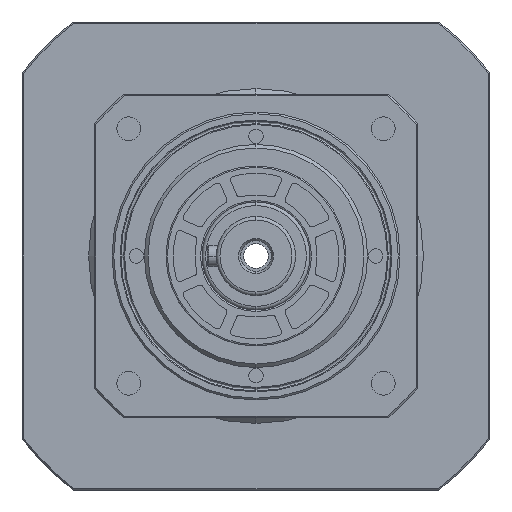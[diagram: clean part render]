
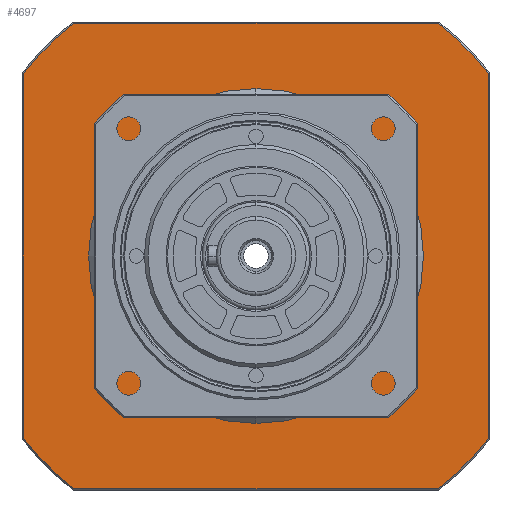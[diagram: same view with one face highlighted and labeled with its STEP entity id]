
A CAD part, left-side view. The second image highlights one B-rep face of the part: STEP entity #4697.
In plain terms, the highlighted planar face has unit normal (-1, 0, 0).
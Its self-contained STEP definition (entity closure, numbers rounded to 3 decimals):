
#113 = FACE_BOUND ( 'NONE', #980, .T. ) ;
#191 = FACE_OUTER_BOUND ( 'NONE', #988, .T. ) ;
#980 = EDGE_LOOP ( 'NONE', ( #1391, #1779 ) ) ;
#988 = EDGE_LOOP ( 'NONE', ( #1407, #1781, #1782, #1783, #1415, #1414, #1417, #1416 ) ) ;
#1391 = ORIENTED_EDGE ( 'NONE', *, *, #10504, .T. ) ;
#1407 = ORIENTED_EDGE ( 'NONE', *, *, #6559, .T. ) ;
#1414 = ORIENTED_EDGE ( 'NONE', *, *, #6561, .T. ) ;
#1415 = ORIENTED_EDGE ( 'NONE', *, *, #6557, .T. ) ;
#1416 = ORIENTED_EDGE ( 'NONE', *, *, #6851, .T. ) ;
#1417 = ORIENTED_EDGE ( 'NONE', *, *, #6846, .T. ) ;
#1779 = ORIENTED_EDGE ( 'NONE', *, *, #6555, .T. ) ;
#1781 = ORIENTED_EDGE ( 'NONE', *, *, #6572, .T. ) ;
#1782 = ORIENTED_EDGE ( 'NONE', *, *, #6567, .T. ) ;
#1783 = ORIENTED_EDGE ( 'NONE', *, *, #6564, .T. ) ;
#2352 = DIRECTION ( 'NONE',  ( -1., 0., 0. ) ) ;
#2355 = DIRECTION ( 'NONE',  ( 0., 1., 0. ) ) ;
#2423 = DIRECTION ( 'NONE',  ( 0., 0., -1. ) ) ;
#2424 = CARTESIAN_POINT ( 'NONE',  ( 206.4, 2.422, 0. ) ) ;
#2430 = CARTESIAN_POINT ( 'NONE',  ( 206.4, 41.422, 64.6 ) ) ;
#3274 = CARTESIAN_POINT ( 'NONE',  ( 206.4, 67.022, -50.668 ) ) ;
#3548 = DIRECTION ( 'NONE',  ( 0., 0., -1. ) ) ;
#3551 = PLANE ( 'NONE',  #6092 ) ;
#3552 = DIRECTION ( 'NONE',  ( 1., 0., 0. ) ) ;
#3553 = CARTESIAN_POINT ( 'NONE',  ( 206.4, 41.422, 0. ) ) ;
#3608 = CARTESIAN_POINT ( 'NONE',  ( 206.4, 67.022, 50.668 ) ) ;
#3651 = CARTESIAN_POINT ( 'NONE',  ( 206.4, -62.178, -50.668 ) ) ;
#3831 = CIRCLE ( 'NONE', #12717, 39.4 ) ;
#4697 = ADVANCED_FACE ( 'NONE', ( #113, #191 ), #3551, .F. ) ;
#4813 = VERTEX_POINT ( 'NONE', #3608 ) ;
#4831 = VERTEX_POINT ( 'NONE', #3274 ) ;
#4900 = VERTEX_POINT ( 'NONE', #3651 ) ;
#6092 = AXIS2_PLACEMENT_3D ( 'NONE', #3553, #3552, #3548 ) ;
#6555 = EDGE_CURVE ( 'NONE', #8344, #8627, #9176, .T. ) ;
#6557 = EDGE_CURVE ( 'NONE', #4900, #8744, #9178, .T. ) ;
#6559 = EDGE_CURVE ( 'NONE', #4813, #4831, #9180, .T. ) ;
#6561 = EDGE_CURVE ( 'NONE', #8744, #8172, #9184, .T. ) ;
#6564 = EDGE_CURVE ( 'NONE', #8623, #4900, #9185, .T. ) ;
#6567 = EDGE_CURVE ( 'NONE', #8550, #8623, #9186, .T. ) ;
#6572 = EDGE_CURVE ( 'NONE', #4831, #8550, #9193, .T. ) ;
#6846 = EDGE_CURVE ( 'NONE', #8172, #8722, #7237, .T. ) ;
#6851 = EDGE_CURVE ( 'NONE', #8722, #4813, #7225, .T. ) ;
#7225 = CIRCLE ( 'NONE', #12540, 82.1 ) ;
#7227 = VECTOR ( 'NONE', #2355, 1000. ) ;
#7237 = LINE ( 'NONE', #2430, #7227 ) ;
#7361 = CARTESIAN_POINT ( 'NONE',  ( 206.4, 53.09, 64.6 ) ) ;
#7389 = CARTESIAN_POINT ( 'NONE',  ( 206.4, -62.178, 50.668 ) ) ;
#7737 = CARTESIAN_POINT ( 'NONE',  ( 206.4, -48.246, 64.6 ) ) ;
#7795 = CARTESIAN_POINT ( 'NONE',  ( 206.4, 2.422, -39.4 ) ) ;
#7847 = CARTESIAN_POINT ( 'NONE',  ( 206.4, 53.09, -64.6 ) ) ;
#7869 = CARTESIAN_POINT ( 'NONE',  ( 206.4, -48.246, -64.6 ) ) ;
#7872 = CARTESIAN_POINT ( 'NONE',  ( 206.4, 2.422, 39.4 ) ) ;
#8172 = VERTEX_POINT ( 'NONE', #7737 ) ;
#8344 = VERTEX_POINT ( 'NONE', #7795 ) ;
#8550 = VERTEX_POINT ( 'NONE', #7847 ) ;
#8623 = VERTEX_POINT ( 'NONE', #7869 ) ;
#8627 = VERTEX_POINT ( 'NONE', #7872 ) ;
#8722 = VERTEX_POINT ( 'NONE', #7361 ) ;
#8744 = VERTEX_POINT ( 'NONE', #7389 ) ;
#9176 = CIRCLE ( 'NONE', #12604, 39.4 ) ;
#9178 = LINE ( 'NONE', #10563, #9179 ) ;
#9179 = VECTOR ( 'NONE', #10558, 1000. ) ;
#9180 = LINE ( 'NONE', #10522, #9182 ) ;
#9182 = VECTOR ( 'NONE', #10512, 1000. ) ;
#9184 = CIRCLE ( 'NONE', #12848, 82.1 ) ;
#9185 = CIRCLE ( 'NONE', #12599, 82.1 ) ;
#9186 = LINE ( 'NONE', #12067, #9188 ) ;
#9188 = VECTOR ( 'NONE', #12065, 1000. ) ;
#9193 = CIRCLE ( 'NONE', #12598, 82.1 ) ;
#10504 = EDGE_CURVE ( 'NONE', #8627, #8344, #3831, .T. ) ;
#10512 = DIRECTION ( 'NONE',  ( 0., 0., -1. ) ) ;
#10522 = CARTESIAN_POINT ( 'NONE',  ( 206.4, 67.022, 0. ) ) ;
#10528 = DIRECTION ( 'NONE',  ( 1., 0., 0. ) ) ;
#10558 = DIRECTION ( 'NONE',  ( 0., 0., 1. ) ) ;
#10563 = CARTESIAN_POINT ( 'NONE',  ( 206.4, -62.178, 0. ) ) ;
#10567 = DIRECTION ( 'NONE',  ( 0., 0., -1. ) ) ;
#10579 = CARTESIAN_POINT ( 'NONE',  ( 206.4, 2.422, 0. ) ) ;
#10724 = CARTESIAN_POINT ( 'NONE',  ( 206.4, 2.422, 0. ) ) ;
#11395 = CARTESIAN_POINT ( 'NONE',  ( 206.4, 2.422, 0. ) ) ;
#11396 = DIRECTION ( 'NONE',  ( 1., 0., 0. ) ) ;
#11397 = DIRECTION ( 'NONE',  ( 0., 0., -1. ) ) ;
#11980 = DIRECTION ( 'NONE',  ( 0., 0., -1. ) ) ;
#12030 = DIRECTION ( 'NONE',  ( 0., 0., -1. ) ) ;
#12031 = DIRECTION ( 'NONE',  ( -1., 0., 0. ) ) ;
#12033 = CARTESIAN_POINT ( 'NONE',  ( 206.4, 2.422, 0. ) ) ;
#12065 = DIRECTION ( 'NONE',  ( 0., -1., 0. ) ) ;
#12067 = CARTESIAN_POINT ( 'NONE',  ( 206.4, 41.422, -64.6 ) ) ;
#12091 = DIRECTION ( 'NONE',  ( 0., 0., -1. ) ) ;
#12092 = DIRECTION ( 'NONE',  ( -1., 0., 0. ) ) ;
#12093 = CARTESIAN_POINT ( 'NONE',  ( 206.4, 2.422, 0. ) ) ;
#12102 = DIRECTION ( 'NONE',  ( -1., 0., 0. ) ) ;
#12540 = AXIS2_PLACEMENT_3D ( 'NONE', #2424, #2352, #2423 ) ;
#12598 = AXIS2_PLACEMENT_3D ( 'NONE', #12033, #12031, #12030 ) ;
#12599 = AXIS2_PLACEMENT_3D ( 'NONE', #12093, #12092, #12091 ) ;
#12604 = AXIS2_PLACEMENT_3D ( 'NONE', #10579, #10528, #10567 ) ;
#12717 = AXIS2_PLACEMENT_3D ( 'NONE', #11395, #11396, #11397 ) ;
#12848 = AXIS2_PLACEMENT_3D ( 'NONE', #10724, #12102, #11980 ) ;
